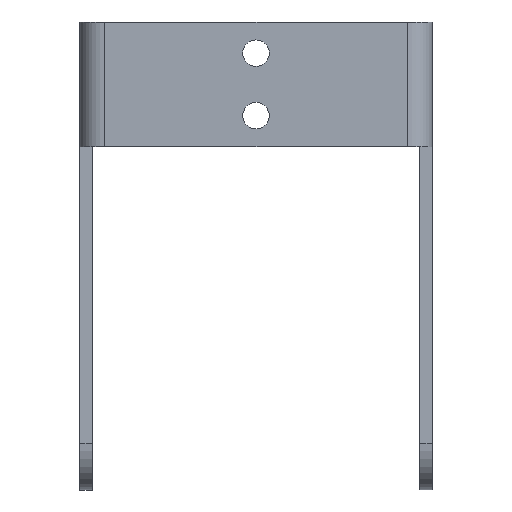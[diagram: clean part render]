
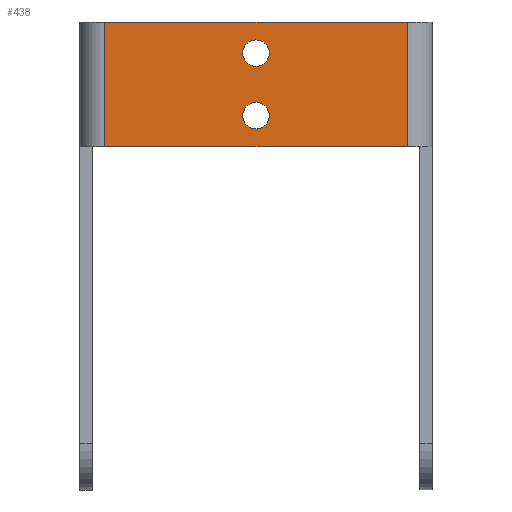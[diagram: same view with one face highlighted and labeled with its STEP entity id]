
A CAD part, top view. The second image highlights one B-rep face of the part: STEP entity #438.
In plain terms, the highlighted planar face has unit normal (0, 0, 1).
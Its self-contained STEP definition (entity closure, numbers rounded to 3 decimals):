
#3 = ORIENTED_EDGE ( 'NONE', *, *, #204, .F. ) ;
#7 = CARTESIAN_POINT ( 'NONE',  ( 0., 0., 4. ) ) ;
#20 = VERTEX_POINT ( 'NONE', #929 ) ;
#37 = DIRECTION ( 'NONE',  ( 1., 0., 0. ) ) ;
#46 = EDGE_LOOP ( 'NONE', ( #846, #994 ) ) ;
#62 = CARTESIAN_POINT ( 'NONE',  ( 0., 0., 4. ) ) ;
#91 = VECTOR ( 'NONE', #181, 1000. ) ;
#94 = EDGE_LOOP ( 'NONE', ( #3, #196 ) ) ;
#120 = CARTESIAN_POINT ( 'NONE',  ( 101., 0., 4. ) ) ;
#129 = EDGE_CURVE ( 'NONE', #824, #293, #654, .T. ) ;
#132 = ORIENTED_EDGE ( 'NONE', *, *, #662, .F. ) ;
#139 = FACE_OUTER_BOUND ( 'NONE', #171, .T. ) ;
#153 = CARTESIAN_POINT ( 'NONE',  ( 4., 40., 4. ) ) ;
#171 = EDGE_LOOP ( 'NONE', ( #899, #132, #690, #250 ) ) ;
#181 = DIRECTION ( 'NONE',  ( -1., 0., 0. ) ) ;
#196 = ORIENTED_EDGE ( 'NONE', *, *, #636, .F. ) ;
#204 = EDGE_CURVE ( 'NONE', #20, #584, #814, .T. ) ;
#205 = CARTESIAN_POINT ( 'NONE',  ( 52.5, 10., 4. ) ) ;
#208 = VERTEX_POINT ( 'NONE', #758 ) ;
#216 = DIRECTION ( 'NONE',  ( 0., 0., 1. ) ) ;
#231 = CARTESIAN_POINT ( 'NONE',  ( 101., 40., 4. ) ) ;
#250 = ORIENTED_EDGE ( 'NONE', *, *, #379, .F. ) ;
#258 = AXIS2_PLACEMENT_3D ( 'NONE', #205, #268, #37 ) ;
#268 = DIRECTION ( 'NONE',  ( 0., 0., 1. ) ) ;
#270 = DIRECTION ( 'NONE',  ( 1., 0., 0. ) ) ;
#288 = AXIS2_PLACEMENT_3D ( 'NONE', #309, #479, #270 ) ;
#293 = VERTEX_POINT ( 'NONE', #120 ) ;
#296 = DIRECTION ( 'NONE',  ( 1., 0., 0. ) ) ;
#309 = CARTESIAN_POINT ( 'NONE',  ( 52.5, 30., 4. ) ) ;
#358 = CARTESIAN_POINT ( 'NONE',  ( 4., 0., 4. ) ) ;
#359 = CIRCLE ( 'NONE', #835, 4.25 ) ;
#379 = EDGE_CURVE ( 'NONE', #859, #293, #465, .T. ) ;
#406 = CIRCLE ( 'NONE', #969, 4.25 ) ;
#413 = LINE ( 'NONE', #709, #91 ) ;
#438 = ADVANCED_FACE ( 'NONE', ( #531, #139, #455 ), #770, .F. ) ;
#439 = VECTOR ( 'NONE', #470, 1000. ) ;
#454 = CARTESIAN_POINT ( 'NONE',  ( 4., 0., 4. ) ) ;
#455 = FACE_BOUND ( 'NONE', #46, .T. ) ;
#465 = LINE ( 'NONE', #865, #439 ) ;
#470 = DIRECTION ( 'NONE',  ( 0., -1., 0. ) ) ;
#479 = DIRECTION ( 'NONE',  ( 0., 0., 1. ) ) ;
#505 = VECTOR ( 'NONE', #996, 1000. ) ;
#531 = FACE_BOUND ( 'NONE', #94, .T. ) ;
#560 = CARTESIAN_POINT ( 'NONE',  ( 56.75, 30., 4. ) ) ;
#580 = DIRECTION ( 'NONE',  ( 1., 0., 0. ) ) ;
#584 = VERTEX_POINT ( 'NONE', #560 ) ;
#607 = CARTESIAN_POINT ( 'NONE',  ( 52.5, 10., 4. ) ) ;
#613 = EDGE_CURVE ( 'NONE', #859, #858, #413, .T. ) ;
#636 = EDGE_CURVE ( 'NONE', #584, #20, #359, .T. ) ;
#645 = CARTESIAN_POINT ( 'NONE',  ( 56.75, 10., 4. ) ) ;
#646 = VECTOR ( 'NONE', #801, 1000. ) ;
#654 = LINE ( 'NONE', #7, #646 ) ;
#662 = EDGE_CURVE ( 'NONE', #824, #858, #916, .T. ) ;
#684 = AXIS2_PLACEMENT_3D ( 'NONE', #62, #701, #693 ) ;
#690 = ORIENTED_EDGE ( 'NONE', *, *, #129, .T. ) ;
#693 = DIRECTION ( 'NONE',  ( -1., 0., 0. ) ) ;
#701 = DIRECTION ( 'NONE',  ( 0., 0., -1. ) ) ;
#709 = CARTESIAN_POINT ( 'NONE',  ( 0., 40., 4. ) ) ;
#713 = EDGE_CURVE ( 'NONE', #919, #208, #767, .T. ) ;
#758 = CARTESIAN_POINT ( 'NONE',  ( 48.25, 10., 4. ) ) ;
#767 = CIRCLE ( 'NONE', #258, 4.25 ) ;
#770 = PLANE ( 'NONE',  #684 ) ;
#797 = EDGE_CURVE ( 'NONE', #208, #919, #406, .T. ) ;
#801 = DIRECTION ( 'NONE',  ( 1., 0., 0. ) ) ;
#814 = CIRCLE ( 'NONE', #288, 4.25 ) ;
#822 = DIRECTION ( 'NONE',  ( 0., 0., 1. ) ) ;
#824 = VERTEX_POINT ( 'NONE', #454 ) ;
#835 = AXIS2_PLACEMENT_3D ( 'NONE', #902, #822, #580 ) ;
#846 = ORIENTED_EDGE ( 'NONE', *, *, #797, .F. ) ;
#858 = VERTEX_POINT ( 'NONE', #153 ) ;
#859 = VERTEX_POINT ( 'NONE', #231 ) ;
#865 = CARTESIAN_POINT ( 'NONE',  ( 101., 0., 4. ) ) ;
#899 = ORIENTED_EDGE ( 'NONE', *, *, #613, .T. ) ;
#902 = CARTESIAN_POINT ( 'NONE',  ( 52.5, 30., 4. ) ) ;
#916 = LINE ( 'NONE', #358, #505 ) ;
#919 = VERTEX_POINT ( 'NONE', #645 ) ;
#929 = CARTESIAN_POINT ( 'NONE',  ( 48.25, 30., 4. ) ) ;
#969 = AXIS2_PLACEMENT_3D ( 'NONE', #607, #216, #296 ) ;
#994 = ORIENTED_EDGE ( 'NONE', *, *, #713, .F. ) ;
#996 = DIRECTION ( 'NONE',  ( 0., 1., 0. ) ) ;
